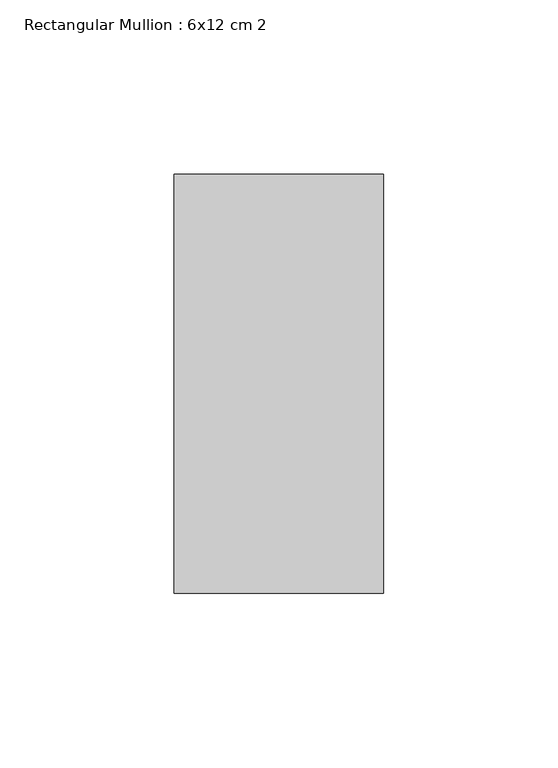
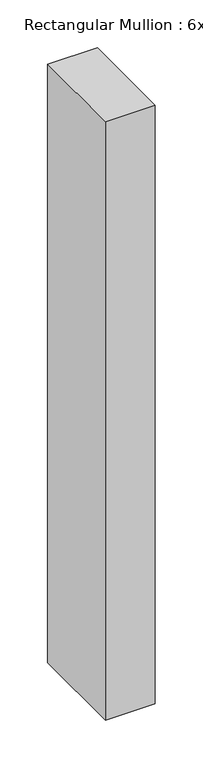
"""IFC4 building model written with IfcOpenShell, lengths in millimetres: member geometry, Rectangular Mullion : 6x12 cm 2."""

from ifc_helpers import new_model, si_unit, frame, origin, place, context, project, spatial, polyline, outline, extrude, source, transform, mapped, element, save


def rectangular_mullion_6x12_cm_2_cceea960(model_context):
    return source(origin(), model_context, "Body", "SweptSolid", [
        extrude(outline(polyline([(0.0, 205.0), (0.0, 85.0), (-60.0, 85.0), (-60.0, 205.0), (0.0, 205.0)])), frame((0.0, 0.0, -761.6331351), z_axis=(0.0, 0.0, 1.0), x_axis=(1.0, 0.0, 0.0)), (0.0, 0.0, 1.0), 761.6331351),
    ])


if __name__ == "__main__":
    model = new_model("IFC4")
    model_context = context("Model", 3, world=origin())
    ifc_project = project(units=[si_unit("LENGTHUNIT", "METRE", prefix="MILLI")], contexts=[model_context])
    site = spatial("IfcSite", under=ifc_project)
    building = spatial("IfcBuilding", under=site)
    placement = place(None, origin())
    rectangular_mullion_6x12_cm_2_shape = rectangular_mullion_6x12_cm_2_cceea960(model_context)
    element("IfcMember", 1, ObjectType="Rectangular Mullion : 6x12 cm 2", at=placement, inside=building, context=model_context, shape_type="MappedRepresentation", body=[
        mapped(rectangular_mullion_6x12_cm_2_shape, transform((0.0, 0.0, 0.0), x_axis=(1.0, 0.0, 0.0), y_axis=(0.0, 1.0, 0.0), z_axis=(0.0, 0.0, 1.0))),
    ])
    save(model, "model.ifc")
